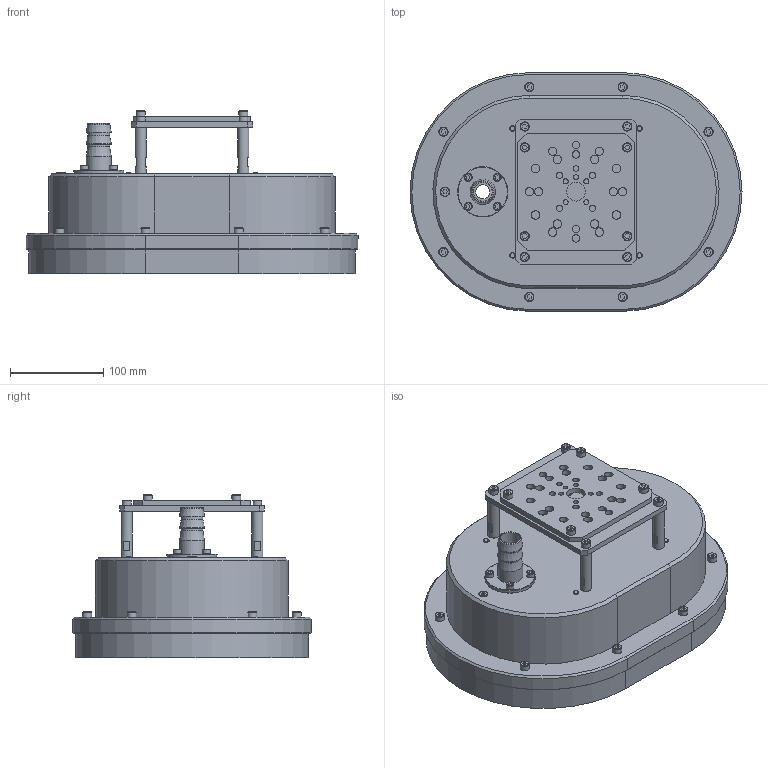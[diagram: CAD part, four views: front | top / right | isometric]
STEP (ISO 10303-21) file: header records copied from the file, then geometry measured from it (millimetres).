
FILE_DESCRIPTION(('STEP AP203'),'1');
FILE_NAME('SGP-H2A-250X350-CRT30-G02.stp','2024-08-07T07:21:32',(' '),(' '),'Spatial InterOp 3D',' ',' ');
FILE_SCHEMA(('CONFIG_CONTROL_DESIGN'));
Length unit declared in the file: millimetre
Products named in the file (43): SGP-H2A-250X350-CRT30-G02; Fitting25; OリングS-31.5; Oリング; プラグ; Body; CBSTS6-12; Stopper; Ring; Pad; shaft 01; Base; SETGR12-50; ねじ: 穴付き - M6.0 x 10.0; ねじ : 穴付き - M5.0 x 10.0; ねじ : 穴付き - M6.0 x 12.0; SGP-000-3302 FLプレートA
Assembly tree (42 placements, depth 2):
  SGP-H2A-250X350-CRT30-G02
    Fitting25
    OリングS-31.5
    Oリング
    プラグ
    Body
    CBSTS6-12
    CBSTS6-12
    CBSTS6-12
    CBSTS6-12
    Stopper
    Ring
    Pad
    shaft 01
    Base
    SETGR12-50
    SETGR12-50
    SETGR12-50
    SETGR12-50
    shaft 01
    shaft 01
    shaft 01
    ねじ: 穴付き - M6.0 x 10.0
    ねじ: 穴付き - M6.0 x 10.0
    ねじ: 穴付き - M6.0 x 10.0
    ねじ: 穴付き - M6.0 x 10.0
    ねじ: 穴付き - M6.0 x 10.0
    ねじ: 穴付き - M6.0 x 10.0
    ねじ: 穴付き - M6.0 x 10.0
    ねじ: 穴付き - M6.0 x 10.0
    ねじ : 穴付き - M5.0 x 10.0
    ねじ : 穴付き - M5.0 x 10.0
    ねじ : 穴付き - M5.0 x 10.0
    ねじ : 穴付き - M5.0 x 10.0
    ねじ : 穴付き - M6.0 x 12.0
    ねじ : 穴付き - M6.0 x 12.0
    ねじ : 穴付き - M6.0 x 12.0
    ねじ : 穴付き - M6.0 x 12.0
    ねじ : 穴付き - M6.0 x 12.0
    ねじ : 穴付き - M6.0 x 12.0
    ねじ : 穴付き - M6.0 x 12.0
    ねじ : 穴付き - M6.0 x 12.0
    SGP-000-3302 FLプレートA
Bounding box: 356 x 256 x 174.82 mm (x, y, z)
Volume: 2022699.4 mm3; surface area: 637041.6 mm2
Topology: 42 solids, 42 shells, 800 faces, 1793 edges, 1173 vertices
Faces by surface type: plane 443, cylinder 239, cone 111, torus 7
Full cylindrical faces by diameter (mm): 4.4 x4, 4.917 x4, 5 x13, 5.5 x8, 6 x37, 6.6 x8, 7 x16, 8 x4, 8.385 x4, 8.5 x1, 9 x16, 9.87 x16, 10 x5, 10.5 x4, 12 x4, 13 x4, 15 x31, 20 x6, 23.474 x2, 26 x1, 27 x3, 30 x1, 36 x1, 54 x1, 118 x1
Entity records: 22868 total; most frequent: DIRECTION 3716, CARTESIAN_POINT 3601, ORIENTED_EDGE 2794, AXIS2_PLACEMENT_3D 1482, EDGE_LOOP 1422, EDGE_CURVE 1397, VERTEX_POINT 1103, FACE_OUTER_BOUND 998
